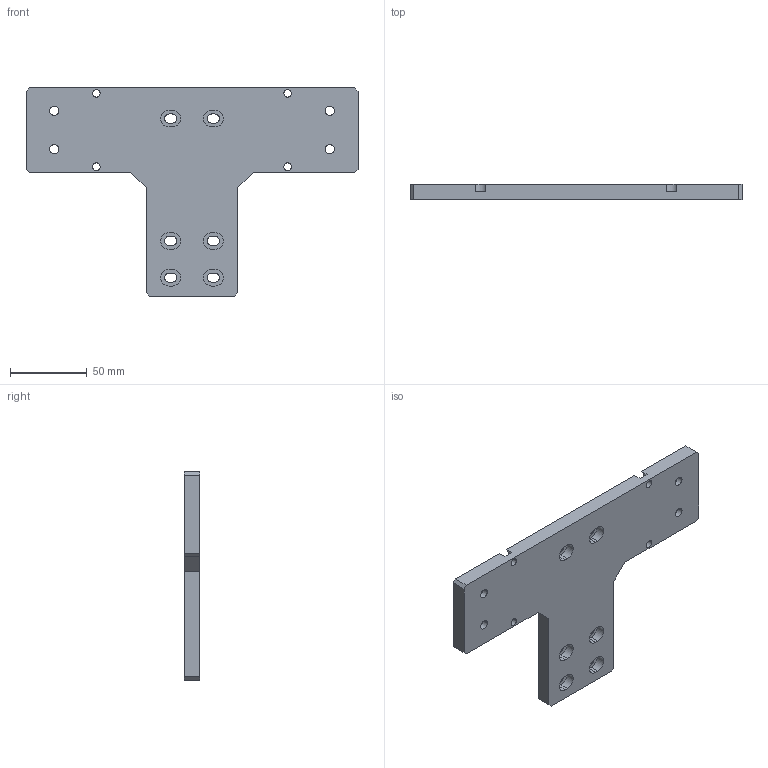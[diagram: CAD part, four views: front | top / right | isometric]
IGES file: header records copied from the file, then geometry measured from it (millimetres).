
Start section:  PTC IGES file: n60-n60m-st.igs
Global section: file name: n60-n60m-st.igs; native system: Pro/ENGINEER by Parametric Technology Corporation; preprocessor: 2008230; author: Owner; organization: Unknown; date: 20121211.162930; units: millimetre
Bounding box: 217 x 10 x 136 mm (x, y, z)
Surface area: 43481 mm2 (no closed solid volume)
Topology: 0 solids, 0 shells, 108 faces, 576 edges, 576 vertices
Faces by surface type: bspline 56, revolution 52
